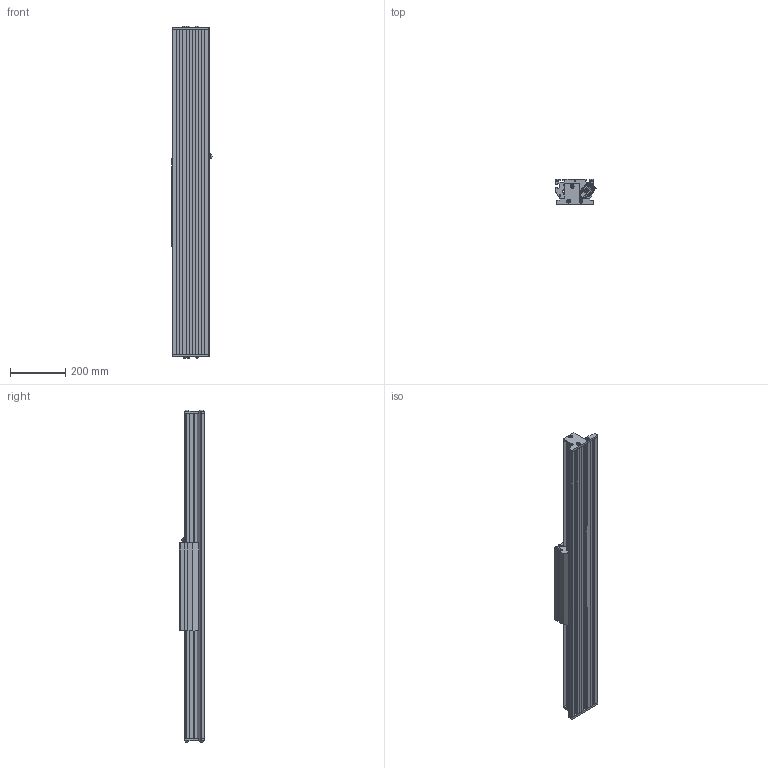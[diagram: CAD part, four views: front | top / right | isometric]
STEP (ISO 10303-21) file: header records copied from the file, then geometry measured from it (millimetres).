
FILE_DESCRIPTION (( 'STEP AP214' ), '1' );
FILE_NAME ('SINADRIVES Linear motor stage MLL20400XS-XX-1-0-ST-00-01188.STEP', '2015-07-06T10:58:15', ( 'Tecnico' ), ( '' ), 'SwSTEP 2.0', 'SolidWorks 2009', '' );
FILE_SCHEMA (( 'AUTOMOTIVE_DESIGN' ));
Length unit declared in the file: millimetre
Products named in the file (7): SINADRIVES PROFILE MLL2XXXX-1172; SINADRIVES CARRIAGE MLL20400XS-1; CARRIAGE MLL20400; Connector power+signal Y-tec 45; SINADRIVES ENDBLOCK MLL2; SINADRIVES ENDBLOCK MLL2-2; SINADRIVES Linear motor stage MLL20400XS-XX-1-0-ST-00-01188
Assembly tree (6 placements, depth 3):
  SINADRIVES Linear motor stage MLL20400XS-XX-1-0-ST-00-01188
    SINADRIVES ENDBLOCK MLL2
    SINADRIVES CARRIAGE MLL20400XS-1
      CARRIAGE MLL20400
      Connector power+signal Y-tec 45
    SINADRIVES ENDBLOCK MLL2-2
    SINADRIVES PROFILE MLL2XXXX-1172
Bounding box: 144.43 x 91 x 1196.8 mm (x, y, z)
Volume: 6470719.6 mm3; surface area: 1116313.4 mm2
Topology: 2 solids, 42 shells, 950 faces, 2640 edges, 1730 vertices
Faces by surface type: plane 445, cylinder 302, bspline 79, cone 70, torus 42, sphere 12
Entity records: 40587 total; most frequent: CARTESIAN_POINT 8656, ORIENTED_EDGE 5024, DIRECTION 4947, EDGE_CURVE 2622, AXIS2_PLACEMENT_3D 1781, VERTEX_POINT 1730, LINE 1385, VECTOR 1385
